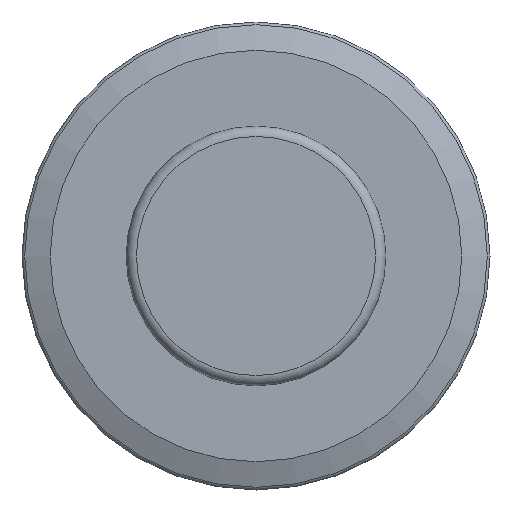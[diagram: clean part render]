
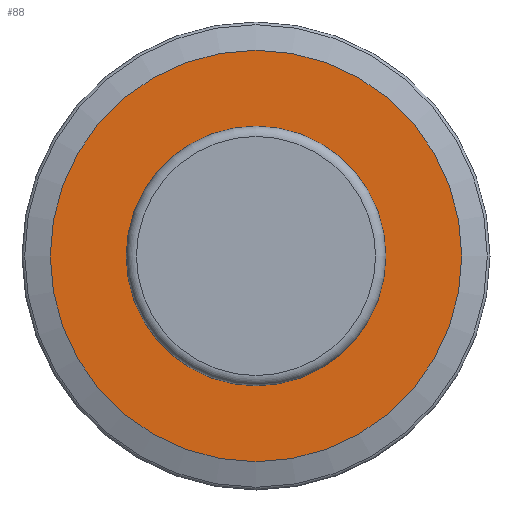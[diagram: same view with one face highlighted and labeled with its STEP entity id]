
A CAD part, front view. The second image highlights one B-rep face of the part: STEP entity #88.
In plain terms, the highlighted planar face has unit normal (0, -1, 0).
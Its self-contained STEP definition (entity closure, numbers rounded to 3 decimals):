
#88 = ADVANCED_FACE( '', ( #191, #192 ), #193, .T. );
#191 = FACE_BOUND( '', #292, .T. );
#192 = FACE_OUTER_BOUND( '', #293, .T. );
#193 = PLANE( '', #294 );
#292 = EDGE_LOOP( '', ( #427 ) );
#293 = EDGE_LOOP( '', ( #428 ) );
#294 = AXIS2_PLACEMENT_3D( '', #429, #430, #431 );
#427 = ORIENTED_EDGE( '', *, *, #454, .T. );
#428 = ORIENTED_EDGE( '', *, *, #487, .T. );
#429 = CARTESIAN_POINT( '', ( 0., 39.3, 13. ) );
#430 = DIRECTION( '', ( 0., -1., 0. ) );
#431 = DIRECTION( '', ( 0., 0., -1. ) );
#454 = EDGE_CURVE( '', #503, #503, #504, .F. );
#487 = EDGE_CURVE( '', #554, #554, #555, .T. );
#503 = VERTEX_POINT( '', #573 );
#504 = CIRCLE( '', #574, 19. );
#554 = VERTEX_POINT( '', #624 );
#555 = CIRCLE( '', #625, 40.005 );
#573 = CARTESIAN_POINT( '', ( 0., 39.3, -19. ) );
#574 = AXIS2_PLACEMENT_3D( '', #643, #644, #645 );
#624 = CARTESIAN_POINT( '', ( 0., 39.3, -40.005 ) );
#625 = AXIS2_PLACEMENT_3D( '', #697, #698, #699 );
#643 = CARTESIAN_POINT( '', ( 0., 39.3, 0. ) );
#644 = DIRECTION( '', ( 0., -1., 0. ) );
#645 = DIRECTION( '', ( 0., 0., -1. ) );
#697 = CARTESIAN_POINT( '', ( 0., 39.3, 0. ) );
#698 = DIRECTION( '', ( 0., -1., 0. ) );
#699 = DIRECTION( '', ( 0., 0., -1. ) );
